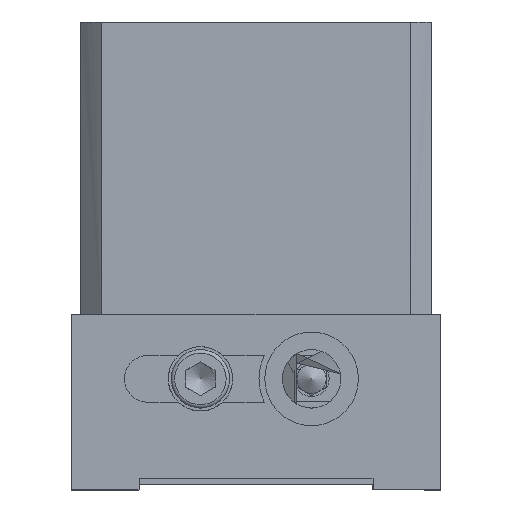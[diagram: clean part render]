
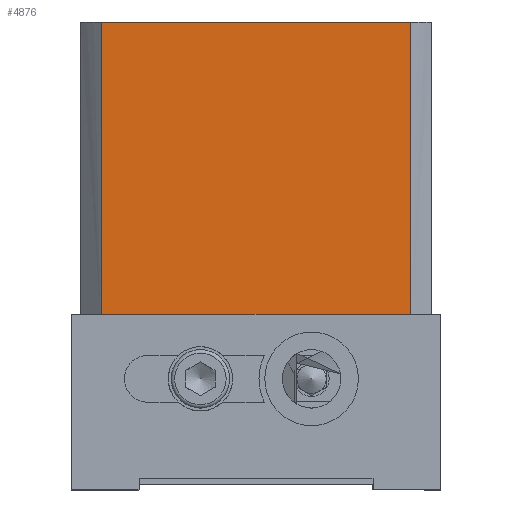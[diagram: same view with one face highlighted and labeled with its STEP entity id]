
A CAD part, left-side view. The second image highlights one B-rep face of the part: STEP entity #4876.
In plain terms, the highlighted planar face has unit normal (-1, 0, 0).
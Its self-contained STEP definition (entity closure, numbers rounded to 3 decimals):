
#3615=CARTESIAN_POINT('',(-30.,3.542,-50.));
#3616=VERTEX_POINT('',#3615);
#3626=CARTESIAN_POINT('',(-30.,56.458,-50.));
#3627=VERTEX_POINT('',#3626);
#3628=CARTESIAN_POINT('',(-30.,56.458,-50.));
#3629=DIRECTION('',(0.0,-1.0,0.0));
#3630=VECTOR('',#3629,52.915);
#3631=LINE('',#3628,#3630);
#3632=EDGE_CURVE('',#3627,#3616,#3631,.T.);
#4846=CARTESIAN_POINT('',(-30.,56.458,0.0));
#4847=DIRECTION('',(-1.0,0.0,0.0));
#4848=DIRECTION('',(0.0,0.0,1.0));
#4849=AXIS2_PLACEMENT_3D('',#4846,#4847,#4848);
#4850=PLANE('',#4849);
#4851=ORIENTED_EDGE('',*,*,#3632,.T.);
#4852=CARTESIAN_POINT('',(-30.,3.542,0.0));
#4853=VERTEX_POINT('',#4852);
#4854=CARTESIAN_POINT('',(-30.,3.542,0.0));
#4855=DIRECTION('',(0.0,0.0,-1.0));
#4856=VECTOR('',#4855,50.);
#4857=LINE('',#4854,#4856);
#4858=EDGE_CURVE('',#4853,#3616,#4857,.T.);
#4859=ORIENTED_EDGE('',*,*,#4858,.F.);
#4860=CARTESIAN_POINT('',(-30.,56.458,0.0));
#4861=VERTEX_POINT('',#4860);
#4862=CARTESIAN_POINT('',(-30.0,56.458,0.0));
#4863=DIRECTION('',(0.0,-1.0,0.0));
#4864=VECTOR('',#4863,52.915);
#4865=LINE('',#4862,#4864);
#4866=EDGE_CURVE('',#4861,#4853,#4865,.T.);
#4867=ORIENTED_EDGE('',*,*,#4866,.F.);
#4868=CARTESIAN_POINT('',(-30.,56.458,0.0));
#4869=DIRECTION('',(0.0,0.0,-1.0));
#4870=VECTOR('',#4869,50.);
#4871=LINE('',#4868,#4870);
#4872=EDGE_CURVE('',#4861,#3627,#4871,.T.);
#4873=ORIENTED_EDGE('',*,*,#4872,.T.);
#4874=EDGE_LOOP('',(#4851,#4859,#4867,#4873));
#4875=FACE_OUTER_BOUND('',#4874,.T.);
#4876=ADVANCED_FACE('',(#4875),#4850,.T.);
